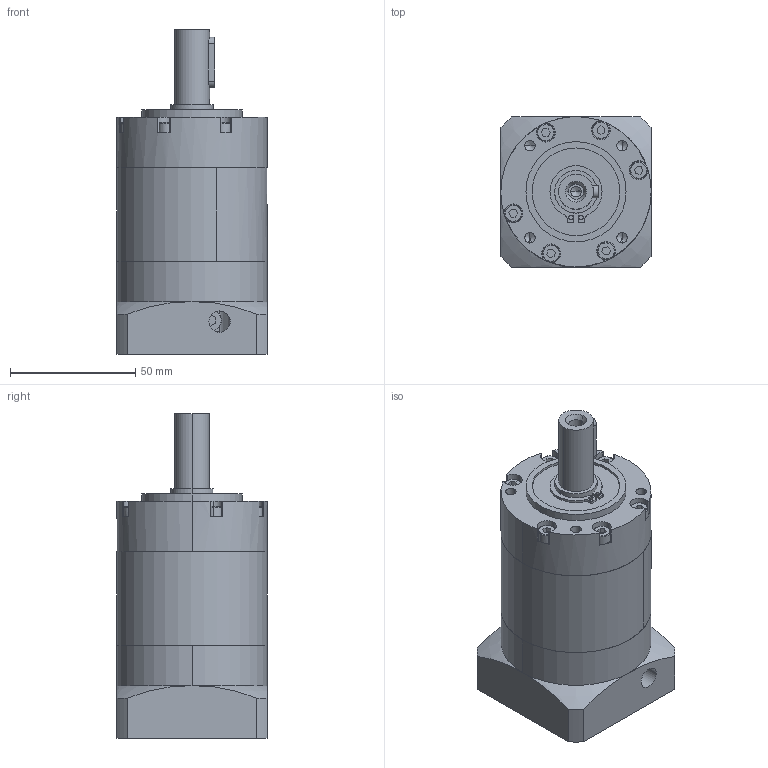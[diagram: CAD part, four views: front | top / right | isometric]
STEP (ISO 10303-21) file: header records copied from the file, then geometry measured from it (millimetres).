
FILE_DESCRIPTION (( 'STEP AP203' ), '1' );
FILE_NAME ('PLE060-L2- 8-38.1-66.7.STEP', '2022-07-01T03:44:10', ( 'Windows User' ), ( 'P R C' ), 'SwSTEP 2.0', 'SolidWorks 2016', '' );
FILE_SCHEMA (( 'CONFIG_CONTROL_DESIGN' ));
Length unit declared in the file: millimetre
Products named in the file (8): GB／T276-94深沟球轴承61905-2RZ; PLE060-L2- 8-38.1-66.7; 囀鞠褒蹟佪 M5℅16; PLE060 內齿圈_二级内齿圈; PLE060 奻屳唳; PLE060 狟屳唳-8_D6-60 D7-14 梓袧; PLE060-窣諉啣-38.1-M4-66.7_1; 邧埴瑩 5x5x20
Assembly tree (7 placements, depth 2):
  PLE060-L2- 8-38.1-66.7
    囀鞠褒蹟佪 M5℅16
    PLE060 內齿圈_二级内齿圈
    PLE060 奻屳唳
    PLE060 狟屳唳-8_D6-60 D7-14 梓袧
    PLE060-窣諉啣-38.1-M4-66.7_1
    邧埴瑩 5x5x20
    GB／T276-94深沟球轴承61905-2RZ
Bounding box: 60 x 60 x 129.5 mm (x, y, z)
Volume: 258683.2 mm3; surface area: 67456.1 mm2
Topology: 7 solids, 7 shells, 1125 faces, 3105 edges, 2041 vertices
Faces by surface type: plane 549, cylinder 201, bspline 188, sphere 91, torus 70, cone 26
Entity records: 47180 total; most frequent: CARTESIAN_POINT 19231, ORIENTED_EDGE 6072, DIRECTION 4973, EDGE_CURVE 3036, VERTEX_POINT 2009, AXIS2_PLACEMENT_3D 1759, LINE 1455, VECTOR 1455
